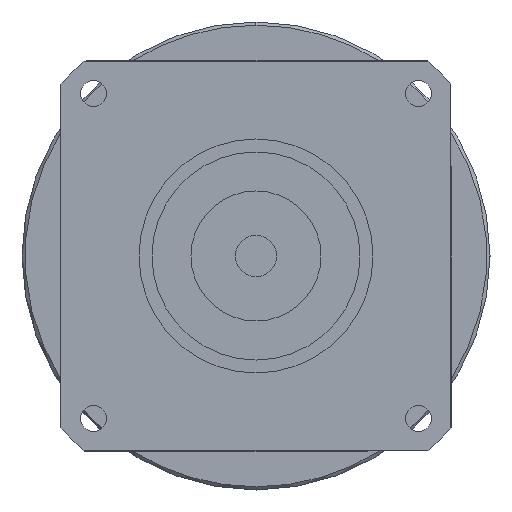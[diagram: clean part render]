
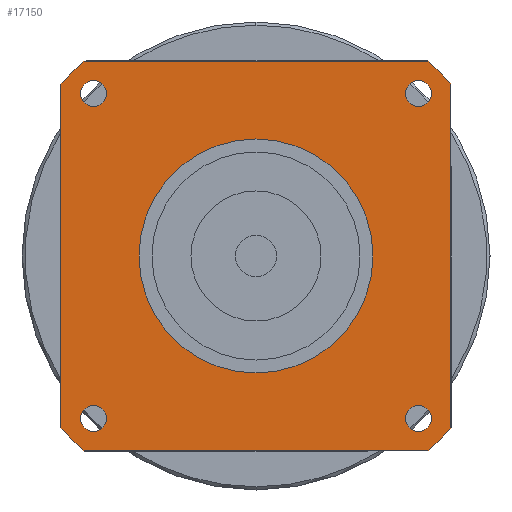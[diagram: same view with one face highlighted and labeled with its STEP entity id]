
A CAD part, left-side view. The second image highlights one B-rep face of the part: STEP entity #17150.
In plain terms, the highlighted planar face has unit normal (-1, 0, 0) as drawn and (0, 0, -1) by its records, which use the part's own axes.
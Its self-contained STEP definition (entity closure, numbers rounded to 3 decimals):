
#12210=CARTESIAN_POINT('',(26.458,30.,-95.));
#12220=VERTEX_POINT('',#12210);
#12250=CARTESIAN_POINT('',(0.,0.,
-95.));
#12260=DIRECTION('',(0.,0.,1.));
#12270=DIRECTION('',(0.,-1.,0.));
#12280=AXIS2_PLACEMENT_3D('',#12250,#12260,#12270);
#12290=CIRCLE('',#12280,40.);
#12300=CARTESIAN_POINT('',(30.,26.458,-95.));
#12310=VERTEX_POINT('',#12300);
#12320=EDGE_CURVE('',#12310,#12220,#12290,.T.);
#12630=CARTESIAN_POINT('',(-26.458,-30.,-95.));
#12640=VERTEX_POINT('',#12630);
#12870=CARTESIAN_POINT('',(26.458,-30.,-95.));
#12880=VERTEX_POINT('',#12870);
#12910=CARTESIAN_POINT('',(-30.,-30.,-95.));
#12920=DIRECTION('',(1.,0.,0.));
#12930=VECTOR('',#12920,1000.);
#12940=LINE('',#12910,#12930);
#12950=EDGE_CURVE('',#12640,#12880,#12940,.T.);
#15260=CARTESIAN_POINT('',(30.,-26.458,-95.));
#15270=VERTEX_POINT('',#15260);
#15300=CARTESIAN_POINT('',(0.,0.,
-95.));
#15310=DIRECTION('',(0.,0.,1.));
#15320=DIRECTION('',(0.,-1.,0.));
#15330=AXIS2_PLACEMENT_3D('',#15300,#15310,#15320);
#15340=CIRCLE('',#15330,40.);
#15350=EDGE_CURVE('',#12880,#15270,#15340,.T.);
#15490=CARTESIAN_POINT('',(23.,25.,-95.));
#15500=VERTEX_POINT('',#15490);
#15670=CARTESIAN_POINT('',(27.,25.,-95.));
#15680=VERTEX_POINT('',#15670);
#15710=CARTESIAN_POINT('',(25.,25.,-95.));
#15720=DIRECTION('',(0.,0.,-1.));
#15730=DIRECTION('',(0.,1.,0.));
#15740=AXIS2_PLACEMENT_3D('',#15710,#15720,#15730);
#15750=CIRCLE('',#15740,2.);
#15760=CARTESIAN_POINT('',(25.,27.,-95.));
#15770=VERTEX_POINT('',#15760);
#15780=EDGE_CURVE('',#15770,#15680,#15750,.T.);
#15800=EDGE_CURVE('',#15500,#15770,#15750,.T.);
#15850=CARTESIAN_POINT('',(-30.,30.,-95.));
#15860=DIRECTION('',(0.,0.,1.));
#15870=DIRECTION('',(-1.,0.,0.));
#15880=AXIS2_PLACEMENT_3D('',#15850,#15860,#15870);
#15890=PLANE('',#15880);
#15900=CARTESIAN_POINT('',(25.,-25.,-95.));
#15910=DIRECTION('',(0.,0.,-1.));
#15920=DIRECTION('',(1.,0.,0.));
#15930=AXIS2_PLACEMENT_3D('',#15900,#15910,#15920);
#15940=CIRCLE('',#15930,2.);
#15950=CARTESIAN_POINT('',(27.,-25.,-95.));
#15960=VERTEX_POINT('',#15950);
#15970=CARTESIAN_POINT('',(25.,-27.,-95.));
#15980=VERTEX_POINT('',#15970);
#15990=EDGE_CURVE('',#15960,#15980,#15940,.T.);
#16000=ORIENTED_EDGE('',*,*,#15990,.F.);
#16010=CARTESIAN_POINT('',(25.,-23.,-95.));
#16020=VERTEX_POINT('',#16010);
#16030=EDGE_CURVE('',#15980,#16020,#15940,.T.);
#16040=ORIENTED_EDGE('',*,*,#16030,.F.);
#16050=EDGE_CURVE('',#16020,#15960,#15940,.T.);
#16060=ORIENTED_EDGE('',*,*,#16050,.F.);
#16070=EDGE_LOOP('',(#16060,#16040,#16000));
#16080=FACE_BOUND('',#16070,.T.);
#16090=ORIENTED_EDGE('',*,*,#15780,.F.);
#16100=EDGE_CURVE('',#15680,#15500,#15750,.T.);
#16110=ORIENTED_EDGE('',*,*,#16100,.F.);
#16120=ORIENTED_EDGE('',*,*,#15800,.F.);
#16130=EDGE_LOOP('',(#16120,#16110,#16090));
#16140=FACE_BOUND('',#16130,.T.);
#16150=CARTESIAN_POINT('',(-25.,25.,-95.));
#16160=DIRECTION('',(0.,0.,-1.));
#16170=DIRECTION('',(-1.,0.,0.));
#16180=AXIS2_PLACEMENT_3D('',#16150,#16160,#16170);
#16190=CIRCLE('',#16180,2.);
#16200=CARTESIAN_POINT('',(-27.,25.,-95.));
#16210=VERTEX_POINT('',#16200);
#16220=CARTESIAN_POINT('',(-25.,27.,-95.));
#16230=VERTEX_POINT('',#16220);
#16240=EDGE_CURVE('',#16210,#16230,#16190,.T.);
#16250=ORIENTED_EDGE('',*,*,#16240,.F.);
#16260=CARTESIAN_POINT('',(-25.,23.,-95.));
#16270=VERTEX_POINT('',#16260);
#16280=EDGE_CURVE('',#16230,#16270,#16190,.T.);
#16290=ORIENTED_EDGE('',*,*,#16280,.F.);
#16300=EDGE_CURVE('',#16270,#16210,#16190,.T.);
#16310=ORIENTED_EDGE('',*,*,#16300,.F.);
#16320=EDGE_LOOP('',(#16310,#16290,#16250));
#16330=FACE_BOUND('',#16320,.T.);
#16340=CARTESIAN_POINT('',(-25.,-25.,-95.));
#16350=DIRECTION('',(0.,0.,-1.));
#16360=DIRECTION('',(0.,-1.,0.));
#16370=AXIS2_PLACEMENT_3D('',#16340,#16350,#16360);
#16380=CIRCLE('',#16370,2.);
#16390=CARTESIAN_POINT('',(-25.,-27.,-95.));
#16400=VERTEX_POINT('',#16390);
#16410=CARTESIAN_POINT('',(-27.,-25.,-95.));
#16420=VERTEX_POINT('',#16410);
#16430=EDGE_CURVE('',#16400,#16420,#16380,.T.);
#16440=ORIENTED_EDGE('',*,*,#16430,.F.);
#16450=CARTESIAN_POINT('',(-23.,-25.,-95.));
#16460=VERTEX_POINT('',#16450);
#16470=EDGE_CURVE('',#16420,#16460,#16380,.T.);
#16480=ORIENTED_EDGE('',*,*,#16470,.F.);
#16490=EDGE_CURVE('',#16460,#16400,#16380,.T.);
#16500=ORIENTED_EDGE('',*,*,#16490,.F.);
#16510=EDGE_LOOP('',(#16500,#16480,#16440));
#16520=FACE_BOUND('',#16510,.T.);
#16530=CARTESIAN_POINT('',(0.,0.,
-95.));
#16540=DIRECTION('',(0.,0.,1.));
#16550=DIRECTION('',(0.,-1.,0.));
#16560=AXIS2_PLACEMENT_3D('',#16530,#16540,#16550);
#16570=CIRCLE('',#16560,40.);
#16580=CARTESIAN_POINT('',(-30.,-26.458,-95.));
#16590=VERTEX_POINT('',#16580);
#16600=EDGE_CURVE('',#16590,#12640,#16570,.T.);
#16610=ORIENTED_EDGE('',*,*,#16600,.F.);
#16620=ORIENTED_EDGE('',*,*,#12950,.F.);
#16630=ORIENTED_EDGE('',*,*,#15350,.F.);
#16640=CARTESIAN_POINT('',(30.,-30.,-95.));
#16650=DIRECTION('',(0.,1.,0.));
#16660=VECTOR('',#16650,1000.);
#16670=LINE('',#16640,#16660);
#16680=EDGE_CURVE('',#15270,#12310,#16670,.T.);
#16690=ORIENTED_EDGE('',*,*,#16680,.F.);
#16700=ORIENTED_EDGE('',*,*,#12320,.F.);
#16710=CARTESIAN_POINT('',(30.,30.,-95.));
#16720=DIRECTION('',(-1.,0.,0.));
#16730=VECTOR('',#16720,1000.);
#16740=LINE('',#16710,#16730);
#16750=CARTESIAN_POINT('',(-26.458,30.,-95.));
#16760=VERTEX_POINT('',#16750);
#16770=EDGE_CURVE('',#12220,#16760,#16740,.T.);
#16780=ORIENTED_EDGE('',*,*,#16770,.F.);
#16790=CARTESIAN_POINT('',(0.,0.,
-95.));
#16800=DIRECTION('',(0.,0.,1.));
#16810=DIRECTION('',(0.,-1.,0.));
#16820=AXIS2_PLACEMENT_3D('',#16790,#16800,#16810);
#16830=CIRCLE('',#16820,40.);
#16840=CARTESIAN_POINT('',(-30.,26.458,-95.));
#16850=VERTEX_POINT('',#16840);
#16860=EDGE_CURVE('',#16760,#16850,#16830,.T.);
#16870=ORIENTED_EDGE('',*,*,#16860,.F.);
#16880=CARTESIAN_POINT('',(-30.,30.,-95.));
#16890=DIRECTION('',(0.,-1.,0.));
#16900=VECTOR('',#16890,1000.);
#16910=LINE('',#16880,#16900);
#16920=EDGE_CURVE('',#16850,#16590,#16910,.T.);
#16930=ORIENTED_EDGE('',*,*,#16920,.F.);
#16940=EDGE_LOOP('',(#16930,#16870,#16780,#16700,#16690,#16630,#16620,
#16610));
#16950=FACE_OUTER_BOUND('',#16940,.T.);
#16960=CARTESIAN_POINT('',(0.,0.,
-95.));
#16970=DIRECTION('',(0.,0.,1.));
#16980=DIRECTION('',(0.,-1.,0.));
#16990=AXIS2_PLACEMENT_3D('',#16960,#16970,#16980);
#17000=CIRCLE('',#16990,18.);
#17010=CARTESIAN_POINT('',(18.,0.,-95.));
#17020=VERTEX_POINT('',#17010);
#17030=CARTESIAN_POINT('',(-18.,0.,-95.));
#17040=VERTEX_POINT('',#17030);
#17050=EDGE_CURVE('',#17020,#17040,#17000,.T.);
#17060=ORIENTED_EDGE('',*,*,#17050,.T.);
#17070=CARTESIAN_POINT('',(0.,-18.,-95.));
#17080=VERTEX_POINT('',#17070);
#17090=EDGE_CURVE('',#17080,#17020,#17000,.T.);
#17100=ORIENTED_EDGE('',*,*,#17090,.T.);
#17110=EDGE_CURVE('',#17040,#17080,#17000,.T.);
#17120=ORIENTED_EDGE('',*,*,#17110,.T.);
#17130=EDGE_LOOP('',(#17120,#17100,#17060));
#17140=FACE_BOUND('',#17130,.T.);
#17150=ADVANCED_FACE('',(#16080,#16140,#16330,#16520,#16950,#17140),
#15890,.F.);
